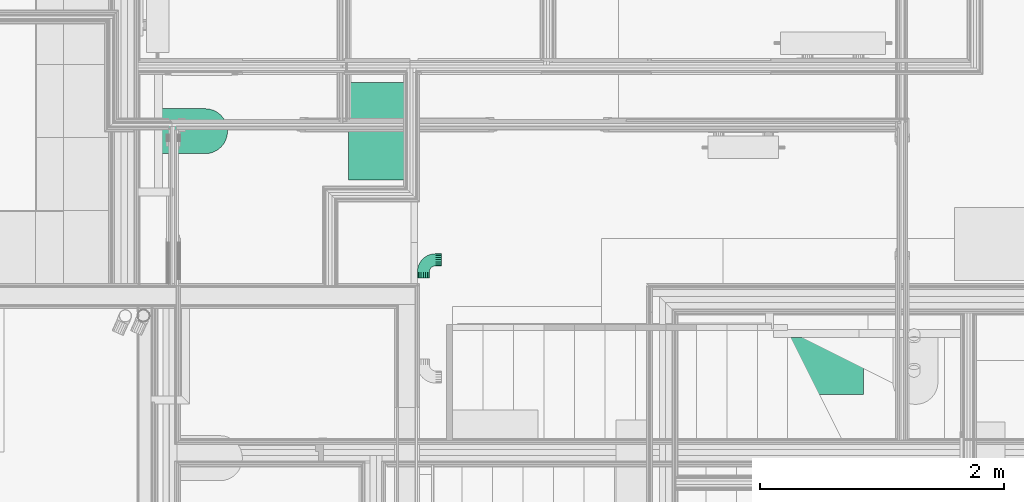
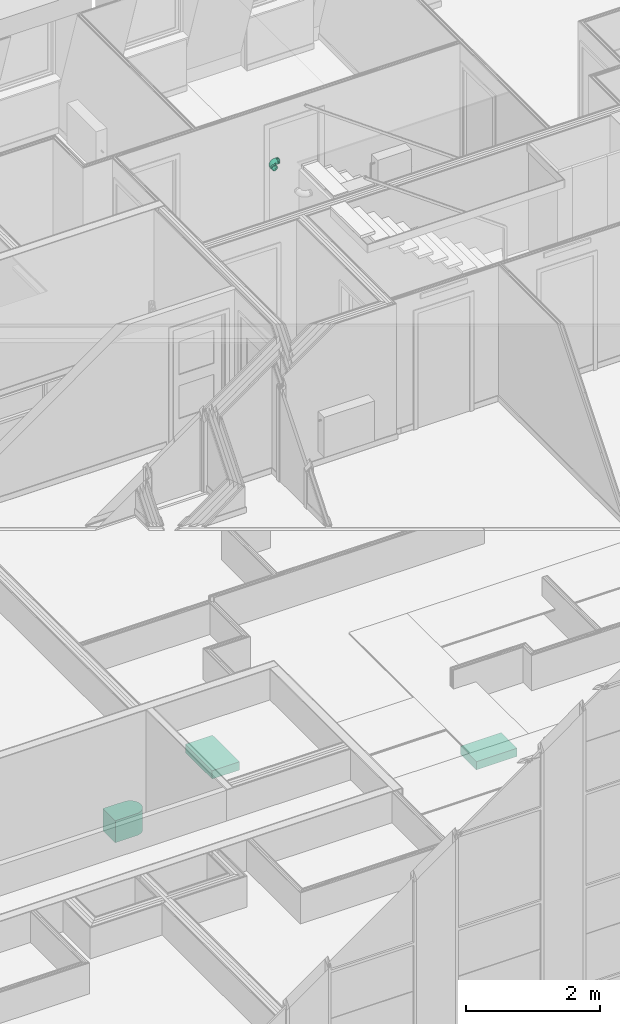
# One storey, part 163 of 169: 3 flow terminals, 1 flow fitting.
"""IFC2X3 building model written with IfcOpenShell, lengths in metres."""

from ifc_helpers import new_model, entity, si_unit, converted_unit, derived_unit, money_unit, direction, frame, origin_with_axes, place, context, subcontext, project, spatial, open_shell, faceted_brep, surface_model, material, type_object, element, save


model = new_model("IFC2X3")

# Units and contexts
model_context = context("Model", 3, precision=1e-05, world=origin_with_axes(), true_north=direction((0.0, 1.0)))
body_context = subcontext(model_context, "Body", "Model", "MODEL_VIEW", scale=1.0)
ifc_project = project(units=[si_unit("LENGTHUNIT", "METRE"), si_unit("AREAUNIT", "SQUARE_METRE"), si_unit("VOLUMEUNIT", "CUBIC_METRE"), si_unit("ABSORBEDDOSEUNIT", "GRAY"), si_unit("AMOUNTOFSUBSTANCEUNIT", "MOLE"), si_unit("DOSEEQUIVALENTUNIT", "SIEVERT"), si_unit("ELECTRICCAPACITANCEUNIT", "FARAD"), si_unit("ELECTRICCHARGEUNIT", "COULOMB"), si_unit("ELECTRICCONDUCTANCEUNIT", "SIEMENS"), si_unit("ELECTRICCURRENTUNIT", "AMPERE"), si_unit("ELECTRICRESISTANCEUNIT", "OHM"), si_unit("ELECTRICVOLTAGEUNIT", "VOLT"), si_unit("ENERGYUNIT", "JOULE"), si_unit("FORCEUNIT", "NEWTON"), si_unit("FREQUENCYUNIT", "HERTZ"), si_unit("ILLUMINANCEUNIT", "LUX"), si_unit("INDUCTANCEUNIT", "HENRY"), si_unit("LUMINOUSFLUXUNIT", "LUMEN"), si_unit("LUMINOUSINTENSITYUNIT", "CANDELA"), si_unit("MAGNETICFLUXDENSITYUNIT", "TESLA"), si_unit("MAGNETICFLUXUNIT", "WEBER"), si_unit("MASSUNIT", "GRAM"), converted_unit("PLANEANGLEUNIT", "degree", entity("IfcReal", 0.0174532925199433), si_unit("PLANEANGLEUNIT", "RADIAN"), dimensions=[0, 0, 0, 0, 0, 0, 0]), si_unit("POWERUNIT", "WATT"), si_unit("PRESSUREUNIT", "PASCAL"), si_unit("RADIOACTIVITYUNIT", "BECQUEREL"), si_unit("SOLIDANGLEUNIT", "STERADIAN"), si_unit("THERMODYNAMICTEMPERATUREUNIT", "KELVIN"), si_unit("TIMEUNIT", "SECOND"), derived_unit("ACCELERATIONUNIT", [(si_unit("LENGTHUNIT", "METRE"), 1), (si_unit("TIMEUNIT", "SECOND"), -2)]), derived_unit("ANGULARVELOCITYUNIT", [(converted_unit("PLANEANGLEUNIT", "degree", entity("IfcReal", 0.0174532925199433), si_unit("PLANEANGLEUNIT", "RADIAN"), dimensions=[0, 0, 0, 0, 0, 0, 0]), 1), (si_unit("TIMEUNIT", "SECOND"), -1)]), derived_unit("CURVATUREUNIT", [(converted_unit("PLANEANGLEUNIT", "degree", entity("IfcReal", 0.0174532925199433), si_unit("PLANEANGLEUNIT", "RADIAN"), dimensions=[0, 0, 0, 0, 0, 0, 0]), 1), (si_unit("LENGTHUNIT", "METRE"), -1)]), derived_unit("DYNAMICVISCOSITYUNIT", [(si_unit("PRESSUREUNIT", "PASCAL"), 1), (si_unit("TIMEUNIT", "SECOND"), 1)]), derived_unit("HEATFLUXDENSITYUNIT", [(si_unit("POWERUNIT", "WATT"), 1), (si_unit("LENGTHUNIT", "METRE"), -2)]), derived_unit("HEATINGVALUEUNIT", [(si_unit("ENERGYUNIT", "JOULE"), 1), (si_unit("MASSUNIT", "GRAM"), -1)]), derived_unit("INTEGERCOUNTRATEUNIT", [(si_unit("TIMEUNIT", "SECOND"), -1)]), derived_unit("IONCONCENTRATIONUNIT", [(si_unit("MASSUNIT", "GRAM"), 1), (si_unit("VOLUMEUNIT", "CUBIC_METRE"), -1)]), derived_unit("ISOTHERMALMOISTURECAPACITYUNIT", [(si_unit("VOLUMEUNIT", "CUBIC_METRE"), 1), (si_unit("MASSUNIT", "GRAM"), -1)]), derived_unit("KINEMATICVISCOSITYUNIT", [(si_unit("AREAUNIT", "SQUARE_METRE"), 1), (si_unit("TIMEUNIT", "SECOND"), -1)]), derived_unit("LINEARFORCEUNIT", [(si_unit("FORCEUNIT", "NEWTON"), 1), (si_unit("LENGTHUNIT", "METRE"), -1)]), derived_unit("LINEARMOMENTUNIT", [(si_unit("FORCEUNIT", "NEWTON"), 1), (si_unit("LENGTHUNIT", "METRE"), -1)]), derived_unit("LINEARSTIFFNESSUNIT", [(si_unit("FORCEUNIT", "NEWTON"), 1), (si_unit("LENGTHUNIT", "METRE"), -1)]), derived_unit("LINEARVELOCITYUNIT", [(si_unit("LENGTHUNIT", "METRE"), 1), (si_unit("TIMEUNIT", "SECOND"), -1)]), derived_unit("LUMINOUSINTENSITYDISTRIBUTIONUNIT", [(si_unit("LUMINOUSINTENSITYUNIT", "CANDELA"), 1), (si_unit("LUMINOUSFLUXUNIT", "LUMEN"), -1)]), derived_unit("MASSDENSITYUNIT", [(si_unit("MASSUNIT", "GRAM"), 1), (si_unit("VOLUMEUNIT", "CUBIC_METRE"), -1)]), derived_unit("MASSFLOWRATEUNIT", [(si_unit("MASSUNIT", "GRAM"), 1), (si_unit("TIMEUNIT", "SECOND"), -1)]), derived_unit("MASSPERLENGTHUNIT", [(si_unit("MASSUNIT", "GRAM"), 1), (si_unit("LENGTHUNIT", "METRE"), -1)]), derived_unit("MODULUSOFELASTICITYUNIT", [(si_unit("FORCEUNIT", "NEWTON"), 1), (si_unit("AREAUNIT", "SQUARE_METRE"), -1)]), derived_unit("MODULUSOFLINEARSUBGRADEREACTIONUNIT", [(si_unit("FORCEUNIT", "NEWTON"), 1), (si_unit("LENGTHUNIT", "METRE"), -2)]), derived_unit("MODULUSOFROTATIONALSUBGRADEREACTIONUNIT", [(si_unit("FORCEUNIT", "NEWTON"), 1), (si_unit("LENGTHUNIT", "METRE"), 1)]), derived_unit("MODULUSOFSUBGRADEREACTIONUNIT", [(si_unit("FORCEUNIT", "NEWTON"), 1), (si_unit("VOLUMEUNIT", "CUBIC_METRE"), -1)]), derived_unit("MOISTUREDIFFUSIVITYUNIT", [(si_unit("VOLUMEUNIT", "CUBIC_METRE"), 1), (si_unit("TIMEUNIT", "SECOND"), -1)]), derived_unit("MOLECULARWEIGHTUNIT", [(si_unit("MASSUNIT", "GRAM"), 1), (si_unit("AMOUNTOFSUBSTANCEUNIT", "MOLE"), -1)]), derived_unit("PLANARFORCEUNIT", [(si_unit("FORCEUNIT", "NEWTON"), 1), (si_unit("LENGTHUNIT", "METRE"), -2)]), derived_unit("ROTATIONALFREQUENCYUNIT", [(si_unit("TIMEUNIT", "SECOND"), -1)]), derived_unit("ROTATIONALMASSUNIT", [(si_unit("MASSUNIT", "GRAM"), 1), (si_unit("LENGTHUNIT", "METRE"), 2)]), derived_unit("ROTATIONALSTIFFNESSUNIT", [(si_unit("FORCEUNIT", "NEWTON"), 1), (si_unit("LENGTHUNIT", "METRE"), 1), (converted_unit("PLANEANGLEUNIT", "degree", entity("IfcReal", 0.0174532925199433), si_unit("PLANEANGLEUNIT", "RADIAN"), dimensions=[0, 0, 0, 0, 0, 0, 0]), -1)]), derived_unit("SECTIONAREAINTEGRALUNIT", [(si_unit("LENGTHUNIT", "METRE"), 5)]), derived_unit("SECTIONMODULUSUNIT", [(si_unit("LENGTHUNIT", "METRE"), 3)]), derived_unit("SHEARMODULUSUNIT", [(si_unit("FORCEUNIT", "NEWTON"), 1), (si_unit("AREAUNIT", "SQUARE_METRE"), -1)]), derived_unit("SOUNDPOWERUNIT", [(si_unit("ENERGYUNIT", "JOULE"), 1), (si_unit("TIMEUNIT", "SECOND"), -1)]), derived_unit("SPECIFICHEATCAPACITYUNIT", [(si_unit("FORCEUNIT", "NEWTON"), 1), (si_unit("MASSUNIT", "GRAM"), -1), (si_unit("THERMODYNAMICTEMPERATUREUNIT", "KELVIN"), -1)]), derived_unit("TEMPERATUREGRADIENTUNIT", [(si_unit("THERMODYNAMICTEMPERATUREUNIT", "KELVIN"), 1), (si_unit("LENGTHUNIT", "METRE"), -1)]), derived_unit("THERMALADMITTANCEUNIT", [(si_unit("POWERUNIT", "WATT"), 1), (si_unit("AREAUNIT", "SQUARE_METRE"), -1), (si_unit("THERMODYNAMICTEMPERATUREUNIT", "KELVIN"), -1)]), derived_unit("THERMALCONDUCTANCEUNIT", [(si_unit("POWERUNIT", "WATT"), 1), (si_unit("LENGTHUNIT", "METRE"), -1), (si_unit("THERMODYNAMICTEMPERATUREUNIT", "KELVIN"), -1)]), derived_unit("THERMALEXPANSIONCOEFFICIENTUNIT", [(si_unit("THERMODYNAMICTEMPERATUREUNIT", "KELVIN"), -1)]), derived_unit("THERMALRESISTANCEUNIT", [(si_unit("AREAUNIT", "SQUARE_METRE"), 1), (si_unit("POWERUNIT", "WATT"), -1)]), derived_unit("THERMALTRANSMITTANCEUNIT", [(si_unit("POWERUNIT", "WATT"), 1), (si_unit("AREAUNIT", "SQUARE_METRE"), -1), (si_unit("THERMODYNAMICTEMPERATUREUNIT", "KELVIN"), -1)]), derived_unit("TORQUEUNIT", [(si_unit("FORCEUNIT", "NEWTON"), 1), (si_unit("LENGTHUNIT", "METRE"), 1)]), derived_unit("VAPORPERMEABILITYUNIT", [(si_unit("MASSUNIT", "GRAM"), 1), (si_unit("TIMEUNIT", "SECOND"), -1)]), derived_unit("VOLUMETRICFLOWRATEUNIT", [(si_unit("VOLUMEUNIT", "CUBIC_METRE"), 1), (si_unit("TIMEUNIT", "SECOND"), -1)]), derived_unit("WARPINGCONSTANTUNIT", [(si_unit("LENGTHUNIT", "METRE"), 6)]), derived_unit("WARPINGMOMENTUNIT", [(si_unit("FORCEUNIT", "NEWTON"), 1), (si_unit("LENGTHUNIT", "METRE"), 2)]), money_unit("GBP")], contexts=[model_context])

# Site, building, storey, space
site_placement = place(None, origin_with_axes())
site = spatial("IfcSite", under=ifc_project, at=site_placement, Name="Site", CompositionType="ELEMENT")
building_placement = place(site_placement, origin_with_axes())
building = spatial("IfcBuilding", under=site, at=building_placement, Name="Building01", CompositionType="ELEMENT")
storey_placement = place(building_placement, frame((0.0, 0.0, 5.15), z_axis=(0.0, 0.0, 1.0), x_axis=(1.0, 0.0, 0.0)))
storey = spatial("IfcBuildingStorey", under=building, at=storey_placement, Name="1F", CompositionType="ELEMENT", Elevation=5.15)
space_1_placement = place(storey_placement, frame((18.239976, 7.549915, 9.86), z_axis=(0.0, 0.0, 1.0), x_axis=(0.0, 1.0, 0.0)))
space_1 = spatial("IfcSpace", under=storey, at=space_1_placement, Name="corridor (protected)", CompositionType="ELEMENT", InteriorOrExteriorSpace="NOTDEFINED")

# Flow fitting
ifc_material = material(Name="M_BSUK_Ventilation")
duct_fitting_type = type_object("IfcDuctFittingType", Name="M-Roundelbow-DefaultRound", PredefinedType="BEND")
placement = place(building_placement, origin_with_axes())
flow_fitting_placement = place(placement, frame((18.05, 8.932559, 17.28), z_axis=(-1.0, 0.0, 0.0), x_axis=(0.0, 1.0, 0.0)))
element("IfcFlowFitting", 1, at=flow_fitting_placement, inside=space_1, type_object=duct_fitting_type, material=ifc_material, Name="M-Roundelbow-DefaultRound", ObjectType="M-Roundelbow-DefaultRound", context=body_context, shape_type="SurfaceModel", body=[
    surface_model("IfcShellBasedSurfaceModel", [(0.008112, -0.01349, -0.048784), (0.0, -0.01349, -0.048146), (0.0, 0.0, -0.05), (0.007822, 0.0, -0.050616), (0.016024, -0.01349, -0.050684), (0.015451, 0.0, -0.052447), (0.023541, -0.01349, -0.053798), (0.0227, 0.0, -0.05545), (0.030479, -0.01349, -0.058049), (0.029389, 0.0, -0.059549), (0.036666, -0.01349, -0.063334), (0.035355, 0.0, -0.064645), (0.041951, -0.01349, -0.069521), (0.040451, 0.0, -0.070611), (0.046202, -0.01349, -0.076459), (0.04455, 0.0, -0.0773), (0.049316, -0.01349, -0.083976), (0.047553, 0.0, -0.084549), (0.051216, -0.01349, -0.091888), (0.049384, 0.0, -0.092178), (0.051854, -0.01349, -0.1), (0.05, 0.0, -0.1), (0.00896, -0.025979, -0.043426), (0.0, -0.025979, -0.042721), (0.0177, -0.025979, -0.045524), (0.026004, -0.025979, -0.048964), (0.033668, -0.025979, -0.05366), (0.040502, -0.025979, -0.059498), (0.04634, -0.025979, -0.066332), (0.051036, -0.025979, -0.073996), (0.054476, -0.025979, -0.0823), (0.056574, -0.025979, -0.09104), (0.057279, -0.025979, -0.1), (0.010305, -0.036542, -0.034939), (0.0, -0.036542, -0.034128), (0.020356, -0.036542, -0.037352), (0.029905, -0.036542, -0.041307), (0.038719, -0.036542, -0.046708), (0.046579, -0.036542, -0.053421), (0.053292, -0.036542, -0.061281), (0.058693, -0.036542, -0.070095), (0.062648, -0.036542, -0.079644), (0.065061, -0.036542, -0.089695), (0.065872, -0.036542, -0.1), (0.012045, -0.044394, -0.023951), (0.0, -0.044394, -0.023003), (0.023793, -0.044394, -0.026772), (0.034956, -0.044394, -0.031395), (0.045258, -0.044394, -0.037708), (0.054445, -0.044394, -0.045555), (0.062292, -0.044394, -0.054742), (0.068605, -0.044394, -0.065044), (0.073228, -0.044394, -0.076207), (0.076049, -0.044394, -0.087955), (0.076997, -0.044394, -0.1), (0.014052, -0.048954, -0.011279), (0.0, -0.048954, -0.010173), (0.027758, -0.048954, -0.014569), (0.040781, -0.048954, -0.019963), (0.052799, -0.048954, -0.027328), (0.063517, -0.048954, -0.036483), (0.072672, -0.048954, -0.047201), (0.080037, -0.048954, -0.059219), (0.085431, -0.048954, -0.072242), (0.088721, -0.048954, -0.085948), (0.089827, -0.048954, -0.1), (0.016177, -0.049883, 0.002139), (0.0, -0.049883, 0.003412), (0.031956, -0.049883, -0.001649), (0.046948, -0.049883, -0.007859), (0.060784, -0.049883, -0.016338), (0.073123, -0.049883, -0.026877), (0.083662, -0.049883, -0.039216), (0.092141, -0.049883, -0.053052), (0.098351, -0.049883, -0.068044), (0.102139, -0.049883, -0.083823), (0.103412, -0.049883, -0.1), (0.018263, -0.047113, 0.015307), (0.0, -0.047113, 0.016744), (0.036076, -0.047113, 0.01103), (0.053001, -0.047113, 0.00402), (0.06862, -0.047113, -0.005552), (0.08255, -0.047113, -0.01745), (0.094448, -0.047113, -0.03138), (0.10402, -0.047113, -0.046999), (0.11103, -0.047113, -0.063924), (0.115307, -0.047113, -0.081737), (0.116744, -0.047113, -0.1), (0.020154, -0.040848, 0.027248), (0.0, -0.040848, 0.028834), (0.039812, -0.040848, 0.022528), (0.058489, -0.040848, 0.014792), (0.075727, -0.040848, 0.004229), (0.091099, -0.040848, -0.008901), (0.104229, -0.040848, -0.024273), (0.114792, -0.040848, -0.041511), (0.122528, -0.040848, -0.060188), (0.127248, -0.040848, -0.079846), (0.128834, -0.040848, -0.1), (0.021711, -0.031554, 0.037077), (0.0, -0.031554, 0.038786), (0.042887, -0.031554, 0.031993), (0.063007, -0.031554, 0.023659), (0.081576, -0.031554, 0.01228), (0.098136, -0.031554, -0.001864), (0.11228, -0.031554, -0.018424), (0.123659, -0.031554, -0.036993), (0.131993, -0.031554, -0.057113), (0.137077, -0.031554, -0.078289), (0.138786, -0.031554, -0.1), (0.022818, -0.01992, 0.044065), (0.0, -0.01992, 0.045861), (0.045073, -0.01992, 0.038722), (0.066219, -0.01992, 0.029963), (0.085735, -0.01992, 0.018004), (0.103139, -0.01992, 0.003139), (0.118004, -0.01992, -0.014265), (0.129963, -0.01992, -0.033781), (0.138722, -0.01992, -0.054927), (0.144065, -0.01992, -0.077182), (0.145861, -0.01992, -0.1), (0.023392, -0.006808, 0.047693), (0.0, -0.006808, 0.049534), (0.046209, -0.006808, 0.042216), (0.067887, -0.006808, 0.033236), (0.087894, -0.006808, 0.020976), (0.105737, -0.006808, 0.005737), (0.120976, -0.006808, -0.012106), (0.133236, -0.006808, -0.032113), (0.142216, -0.006808, -0.053791), (0.147693, -0.006808, -0.076608), (0.149534, -0.006808, -0.1), (0.023392, 0.006808, 0.047693), (0.0, 0.006808, 0.049534), (0.046209, 0.006808, 0.042216), (0.067887, 0.006808, 0.033236), (0.087894, 0.006808, 0.020976), (0.105737, 0.006808, 0.005737), (0.120976, 0.006808, -0.012106), (0.133236, 0.006808, -0.032113), (0.142216, 0.006808, -0.053791), (0.147693, 0.006808, -0.076608), (0.149534, 0.006808, -0.1), (0.022818, 0.01992, 0.044065), (0.0, 0.01992, 0.045861), (0.045073, 0.01992, 0.038722), (0.066219, 0.01992, 0.029963), (0.085735, 0.01992, 0.018004), (0.103139, 0.01992, 0.003139), (0.118004, 0.01992, -0.014265), (0.129963, 0.01992, -0.033781), (0.138722, 0.01992, -0.054927), (0.144065, 0.01992, -0.077182), (0.145861, 0.01992, -0.1), (0.021711, 0.031554, 0.037077), (0.0, 0.031554, 0.038786), (0.042887, 0.031554, 0.031993), (0.063007, 0.031554, 0.023659), (0.081576, 0.031554, 0.01228), (0.098136, 0.031554, -0.001864), (0.11228, 0.031554, -0.018424), (0.123659, 0.031554, -0.036993), (0.131993, 0.031554, -0.057113), (0.137077, 0.031554, -0.078289), (0.138786, 0.031554, -0.1), (0.020154, 0.040848, 0.027248), (0.0, 0.040848, 0.028834), (0.039812, 0.040848, 0.022528), (0.058489, 0.040848, 0.014792), (0.075727, 0.040848, 0.004229), (0.091099, 0.040848, -0.008901), (0.104229, 0.040848, -0.024273), (0.114792, 0.040848, -0.041511), (0.122528, 0.040848, -0.060188), (0.127248, 0.040848, -0.079846), (0.128834, 0.040848, -0.1), (0.018263, 0.047113, 0.015307), (0.0, 0.047113, 0.016744), (0.036076, 0.047113, 0.01103), (0.053001, 0.047113, 0.00402), (0.06862, 0.047113, -0.005552), (0.08255, 0.047113, -0.01745), (0.094448, 0.047113, -0.03138), (0.10402, 0.047113, -0.046999), (0.11103, 0.047113, -0.063924), (0.115307, 0.047113, -0.081737), (0.116744, 0.047113, -0.1), (0.016177, 0.049883, 0.002139), (0.0, 0.049883, 0.003412), (0.031956, 0.049883, -0.001649), (0.046948, 0.049883, -0.007859), (0.060784, 0.049883, -0.016338), (0.073123, 0.049883, -0.026877), (0.083662, 0.049883, -0.039216), (0.092141, 0.049883, -0.053052), (0.098351, 0.049883, -0.068044), (0.102139, 0.049883, -0.083823), (0.103412, 0.049883, -0.1), (0.014052, 0.048954, -0.011279), (0.0, 0.048954, -0.010173), (0.027758, 0.048954, -0.014569), (0.040781, 0.048954, -0.019963), (0.052799, 0.048954, -0.027328), (0.063517, 0.048954, -0.036483), (0.072672, 0.048954, -0.047201), (0.080037, 0.048954, -0.059219), (0.085431, 0.048954, -0.072242), (0.088721, 0.048954, -0.085948), (0.089827, 0.048954, -0.1), (0.012045, 0.044394, -0.023951), (0.0, 0.044394, -0.023003), (0.023793, 0.044394, -0.026772), (0.034956, 0.044394, -0.031395), (0.045258, 0.044394, -0.037708), (0.054445, 0.044394, -0.045555), (0.062292, 0.044394, -0.054742), (0.068605, 0.044394, -0.065044), (0.073228, 0.044394, -0.076207), (0.076049, 0.044394, -0.087955), (0.076997, 0.044394, -0.1), (0.010305, 0.036542, -0.034939), (0.0, 0.036542, -0.034128), (0.020356, 0.036542, -0.037352), (0.029905, 0.036542, -0.041307), (0.038719, 0.036542, -0.046708), (0.046579, 0.036542, -0.053421), (0.053292, 0.036542, -0.061281), (0.058693, 0.036542, -0.070095), (0.062648, 0.036542, -0.079644), (0.065061, 0.036542, -0.089695), (0.065872, 0.036542, -0.1), (0.00896, 0.025979, -0.043426), (0.0, 0.025979, -0.042721), (0.0177, 0.025979, -0.045524), (0.026004, 0.025979, -0.048964), (0.033668, 0.025979, -0.05366), (0.040502, 0.025979, -0.059498), (0.04634, 0.025979, -0.066332), (0.051036, 0.025979, -0.073996), (0.054476, 0.025979, -0.0823), (0.056574, 0.025979, -0.09104), (0.057279, 0.025979, -0.1), (0.008112, 0.01349, -0.048784), (0.0, 0.01349, -0.048146), (0.016024, 0.01349, -0.050684), (0.023541, 0.01349, -0.053798), (0.030479, 0.01349, -0.058049), (0.036666, 0.01349, -0.063334), (0.041951, 0.01349, -0.069521), (0.046202, 0.01349, -0.076459), (0.049316, 0.01349, -0.083976), (0.051216, 0.01349, -0.091888), (0.051854, 0.01349, -0.1), (-0.05, 0.0, -0.05), (0.0, -0.019134, -0.046194), (-0.05, -0.019134, -0.046194), (0.0, -0.035355, -0.035355), (-0.05, -0.035355, -0.035355), (0.0, -0.046194, -0.019134), (-0.05, -0.046194, -0.019134), (0.0, -0.05, 0.0), (-0.05, -0.05, 0.0), (0.0, -0.046194, 0.019134), (-0.05, -0.046194, 0.019134), (0.0, -0.035355, 0.035355), (-0.05, -0.035355, 0.035355), (0.0, -0.019134, 0.046194), (-0.05, -0.019134, 0.046194), (0.0, 0.0, 0.05), (-0.05, 0.0, 0.05), (0.0, 0.019134, 0.046194), (-0.05, 0.019134, 0.046194), (0.0, 0.035355, 0.035355), (-0.05, 0.035355, 0.035355), (0.0, 0.046194, 0.019134), (-0.05, 0.046194, 0.019134), (0.0, 0.05, 0.0), (-0.05, 0.05, 0.0), (0.0, 0.046194, -0.019134), (-0.05, 0.046194, -0.019134), (0.0, 0.035355, -0.035355), (-0.05, 0.035355, -0.035355), (0.0, 0.019134, -0.046194), (-0.05, 0.019134, -0.046194), (0.05, 0.0, -0.15), (0.053806, 0.019134, -0.1), (0.053806, 0.019134, -0.15), (0.064645, 0.035355, -0.1), (0.064645, 0.035355, -0.15), (0.080866, 0.046194, -0.1), (0.080866, 0.046194, -0.15), (0.1, 0.05, -0.1), (0.1, 0.05, -0.15), (0.119134, 0.046194, -0.1), (0.119134, 0.046194, -0.15), (0.135355, 0.035355, -0.1), (0.135355, 0.035355, -0.15), (0.146194, 0.019134, -0.1), (0.146194, 0.019134, -0.15), (0.15, 0.0, -0.1), (0.15, 0.0, -0.15), (0.146194, -0.019134, -0.1), (0.146194, -0.019134, -0.15), (0.135355, -0.035355, -0.1), (0.135355, -0.035355, -0.15), (0.119134, -0.046194, -0.1), (0.119134, -0.046194, -0.15), (0.1, -0.05, -0.1), (0.1, -0.05, -0.15), (0.080866, -0.046194, -0.1), (0.080866, -0.046194, -0.15), (0.064645, -0.035355, -0.1), (0.064645, -0.035355, -0.15), (0.053806, -0.019134, -0.1), (0.053806, -0.019134, -0.15)], [open_shell([[[0, 1, 2, 3]], [[4, 0, 3, 5]], [[6, 4, 5, 7]], [[8, 6, 7, 9]], [[10, 8, 9, 11]], [[12, 10, 11, 13]], [[14, 12, 13, 15]], [[16, 14, 15, 17]], [[18, 16, 17, 19]], [[20, 18, 19, 21]], [[22, 23, 1, 0]], [[24, 22, 0, 4]], [[25, 24, 4, 6]], [[26, 25, 6, 8]], [[27, 26, 8, 10]], [[28, 27, 10, 12]], [[29, 28, 12, 14]], [[30, 29, 14, 16]], [[31, 30, 16, 18]], [[32, 31, 18, 20]], [[33, 34, 23, 22]], [[35, 33, 22, 24]], [[36, 35, 24, 25]], [[37, 36, 25, 26]], [[38, 37, 26, 27]], [[39, 38, 27, 28]], [[40, 39, 28, 29]], [[41, 40, 29, 30]], [[42, 41, 30, 31]], [[43, 42, 31, 32]], [[44, 45, 34, 33]], [[46, 44, 33, 35]], [[47, 46, 35, 36]], [[48, 47, 36, 37]], [[49, 48, 37, 38]], [[50, 49, 38, 39]], [[51, 50, 39, 40]], [[52, 51, 40, 41]], [[53, 52, 41, 42]], [[54, 53, 42, 43]], [[55, 56, 45, 44]], [[57, 55, 44, 46]], [[58, 57, 46, 47]], [[59, 58, 47, 48]], [[60, 59, 48, 49]], [[61, 60, 49, 50]], [[62, 61, 50, 51]], [[63, 62, 51, 52]], [[64, 63, 52, 53]], [[65, 64, 53, 54]], [[66, 67, 56, 55]], [[68, 66, 55, 57]], [[69, 68, 57, 58]], [[70, 69, 58, 59]], [[71, 70, 59, 60]], [[72, 71, 60, 61]], [[73, 72, 61, 62]], [[74, 73, 62, 63]], [[75, 74, 63, 64]], [[76, 75, 64, 65]], [[77, 78, 67, 66]], [[79, 77, 66, 68]], [[80, 79, 68, 69]], [[81, 80, 69, 70]], [[82, 81, 70, 71]], [[83, 82, 71, 72]], [[84, 83, 72, 73]], [[85, 84, 73, 74]], [[86, 85, 74, 75]], [[87, 86, 75, 76]], [[88, 89, 78, 77]], [[90, 88, 77, 79]], [[91, 90, 79, 80]], [[92, 91, 80, 81]], [[93, 92, 81, 82]], [[94, 93, 82, 83]], [[95, 94, 83, 84]], [[96, 95, 84, 85]], [[97, 96, 85, 86]], [[98, 97, 86, 87]], [[99, 100, 89, 88]], [[101, 99, 88, 90]], [[102, 101, 90, 91]], [[103, 102, 91, 92]], [[104, 103, 92, 93]], [[105, 104, 93, 94]], [[106, 105, 94, 95]], [[107, 106, 95, 96]], [[108, 107, 96, 97]], [[109, 108, 97, 98]], [[110, 111, 100, 99]], [[112, 110, 99, 101]], [[113, 112, 101, 102]], [[114, 113, 102, 103]], [[115, 114, 103, 104]], [[116, 115, 104, 105]], [[117, 116, 105, 106]], [[118, 117, 106, 107]], [[119, 118, 107, 108]], [[120, 119, 108, 109]], [[121, 122, 111, 110]], [[123, 121, 110, 112]], [[124, 123, 112, 113]], [[125, 124, 113, 114]], [[126, 125, 114, 115]], [[127, 126, 115, 116]], [[128, 127, 116, 117]], [[129, 128, 117, 118]], [[130, 129, 118, 119]], [[131, 130, 119, 120]], [[132, 133, 122, 121]], [[134, 132, 121, 123]], [[135, 134, 123, 124]], [[136, 135, 124, 125]], [[137, 136, 125, 126]], [[138, 137, 126, 127]], [[139, 138, 127, 128]], [[140, 139, 128, 129]], [[141, 140, 129, 130]], [[142, 141, 130, 131]], [[143, 144, 133, 132]], [[145, 143, 132, 134]], [[146, 145, 134, 135]], [[147, 146, 135, 136]], [[148, 147, 136, 137]], [[149, 148, 137, 138]], [[150, 149, 138, 139]], [[151, 150, 139, 140]], [[152, 151, 140, 141]], [[153, 152, 141, 142]], [[154, 155, 144, 143]], [[156, 154, 143, 145]], [[157, 156, 145, 146]], [[158, 157, 146, 147]], [[159, 158, 147, 148]], [[160, 159, 148, 149]], [[161, 160, 149, 150]], [[162, 161, 150, 151]], [[163, 162, 151, 152]], [[164, 163, 152, 153]], [[165, 166, 155, 154]], [[167, 165, 154, 156]], [[168, 167, 156, 157]], [[169, 168, 157, 158]], [[170, 169, 158, 159]], [[171, 170, 159, 160]], [[172, 171, 160, 161]], [[173, 172, 161, 162]], [[174, 173, 162, 163]], [[175, 174, 163, 164]], [[176, 177, 166, 165]], [[178, 176, 165, 167]], [[179, 178, 167, 168]], [[180, 179, 168, 169]], [[181, 180, 169, 170]], [[182, 181, 170, 171]], [[183, 182, 171, 172]], [[184, 183, 172, 173]], [[185, 184, 173, 174]], [[186, 185, 174, 175]], [[187, 188, 177, 176]], [[189, 187, 176, 178]], [[190, 189, 178, 179]], [[191, 190, 179, 180]], [[192, 191, 180, 181]], [[193, 192, 181, 182]], [[194, 193, 182, 183]], [[195, 194, 183, 184]], [[196, 195, 184, 185]], [[197, 196, 185, 186]], [[198, 199, 188, 187]], [[200, 198, 187, 189]], [[201, 200, 189, 190]], [[202, 201, 190, 191]], [[203, 202, 191, 192]], [[204, 203, 192, 193]], [[205, 204, 193, 194]], [[206, 205, 194, 195]], [[207, 206, 195, 196]], [[208, 207, 196, 197]], [[209, 210, 199, 198]], [[211, 209, 198, 200]], [[212, 211, 200, 201]], [[213, 212, 201, 202]], [[214, 213, 202, 203]], [[215, 214, 203, 204]], [[216, 215, 204, 205]], [[217, 216, 205, 206]], [[218, 217, 206, 207]], [[219, 218, 207, 208]], [[220, 221, 210, 209]], [[222, 220, 209, 211]], [[223, 222, 211, 212]], [[224, 223, 212, 213]], [[225, 224, 213, 214]], [[226, 225, 214, 215]], [[227, 226, 215, 216]], [[228, 227, 216, 217]], [[229, 228, 217, 218]], [[230, 229, 218, 219]], [[231, 232, 221, 220]], [[233, 231, 220, 222]], [[234, 233, 222, 223]], [[235, 234, 223, 224]], [[236, 235, 224, 225]], [[237, 236, 225, 226]], [[238, 237, 226, 227]], [[239, 238, 227, 228]], [[240, 239, 228, 229]], [[241, 240, 229, 230]], [[242, 243, 232, 231]], [[244, 242, 231, 233]], [[245, 244, 233, 234]], [[246, 245, 234, 235]], [[247, 246, 235, 236]], [[248, 247, 236, 237]], [[249, 248, 237, 238]], [[250, 249, 238, 239]], [[251, 250, 239, 240]], [[252, 251, 240, 241]], [[3, 2, 243, 242]], [[5, 3, 242, 244]], [[7, 5, 244, 245]], [[9, 7, 245, 246]], [[11, 9, 246, 247]], [[13, 11, 247, 248]], [[15, 13, 248, 249]], [[17, 15, 249, 250]], [[19, 17, 250, 251]], [[21, 19, 251, 252]], [[253, 2, 254, 255]], [[255, 254, 256, 257]], [[257, 256, 258, 259]], [[259, 258, 260, 261]], [[261, 260, 262, 263]], [[263, 262, 264, 265]], [[265, 264, 266, 267]], [[267, 266, 268, 269]], [[269, 268, 270, 271]], [[271, 270, 272, 273]], [[273, 272, 274, 275]], [[275, 274, 276, 277]], [[277, 276, 278, 279]], [[279, 278, 280, 281]], [[281, 280, 282, 283]], [[283, 282, 2, 253]], [[284, 21, 285, 286]], [[286, 285, 287, 288]], [[288, 287, 289, 290]], [[290, 289, 291, 292]], [[292, 291, 293, 294]], [[294, 293, 295, 296]], [[296, 295, 297, 298]], [[298, 297, 299, 300]], [[300, 299, 301, 302]], [[302, 301, 303, 304]], [[304, 303, 305, 306]], [[306, 305, 307, 308]], [[308, 307, 309, 310]], [[310, 309, 311, 312]], [[312, 311, 313, 314]], [[314, 313, 21, 284]]])]),
])

# Space
space_2_placement = place(storey_placement, frame((15.83, 8.82, 0.017975), z_axis=(0.0, 0.0, 1.0), x_axis=(0.0, -1.0, 0.0)))
space_2 = spatial("IfcSpace", under=storey, at=space_2_placement, Name="02", CompositionType="ELEMENT", InteriorOrExteriorSpace="NOTDEFINED")

# Flow terminal
sanitary_terminal_type_1 = type_object("IfcSanitaryTerminalType", Name="SHE_A-Sink_47x80", PredefinedType="NOTDEFINED")
flow_terminal_1_placement = place(storey_placement, frame((17.67, 10.087491, 0.825), z_axis=(0.0, 0.0, 1.0), x_axis=(1.0, 0.0, 0.0)))
element("IfcFlowTerminal", 2, at=flow_terminal_1_placement, inside=space_2, type_object=sanitary_terminal_type_1, Name="02", ObjectType="SHE_A-Sink_47x80", context=body_context, shape_type="Brep", body=[
    faceted_brep([(-0.235, 0.4, -0.075), (-0.235, 0.4, 0.075), (0.235, 0.4, 0.075), (0.235, 0.4, -0.075), (-0.235, -0.4, -0.075), (-0.235, -0.4, 0.075), (0.235, -0.4, -0.075), (0.235, -0.4, 0.075)], [[[0, 1, 2, 3]], [[4, 5, 1, 0]], [[6, 7, 5, 4]], [[3, 2, 7, 6]], [[1, 5, 7, 2]], [[3, 6, 4, 0]]]),
])

# Space
space_3_placement = place(storey_placement, frame((15.708132, 10.57, 0.017975), z_axis=(0.0, 0.0, 1.0), x_axis=(0.0, -1.0, 0.0)))
space_3 = spatial("IfcSpace", under=storey, at=space_3_placement, Name="ensuite", CompositionType="ELEMENT", InteriorOrExteriorSpace="NOTDEFINED")

# Flow terminal
sanitary_terminal_type_2 = type_object("IfcSanitaryTerminalType", Name="SHE_A-Toilet_base", PredefinedType="NOTDEFINED")
flow_terminal_2_placement = place(storey_placement, frame((16.168135, 10.087492, 0.2), z_axis=(0.0, 0.0, 1.0), x_axis=(1.0, 0.0, 0.0)))
element("IfcFlowTerminal", 3, at=flow_terminal_2_placement, inside=space_3, type_object=sanitary_terminal_type_2, Name="02", ObjectType="SHE_A-Toilet_base", context=body_context, shape_type="Brep", body=[
    faceted_brep([(0.089995, 0.185008, -0.2), (0.126088, 0.181454, -0.2), (0.160795, 0.170926, -0.2), (0.19278, 0.153829, -0.2), (0.220816, 0.130821, -0.2), (0.243824, 0.102785, -0.2), (0.26092, 0.0708, -0.2), (0.271448, 0.036093, -0.2), (0.275003, 0.0, -0.2), (0.271448, -0.036093, -0.2), (0.26092, -0.0708, -0.2), (0.243824, -0.102785, -0.2), (0.220816, -0.130821, -0.2), (0.19278, -0.153829, -0.2), (0.160795, -0.170926, -0.2), (0.126088, -0.181454, -0.2), (0.089995, -0.185009, -0.2), (-0.275003, -0.185009, -0.2), (-0.275003, 0.185008, -0.2), (-0.275003, 0.185008, 0.2), (-0.275003, -0.185009, 0.2), (0.089995, -0.185009, 0.2), (0.126088, -0.181454, 0.2), (0.160795, -0.170926, 0.2), (0.19278, -0.153829, 0.2), (0.220816, -0.130821, 0.2), (0.243824, -0.102785, 0.2), (0.26092, -0.0708, 0.2), (0.271448, -0.036093, 0.2), (0.275003, 0.0, 0.2), (0.271448, 0.036093, 0.2), (0.26092, 0.0708, 0.2), (0.243824, 0.102785, 0.2), (0.220816, 0.130821, 0.2), (0.19278, 0.153829, 0.2), (0.160795, 0.170926, 0.2), (0.126088, 0.181454, 0.2), (0.089995, 0.185008, 0.2)], [[[0, 1, 2, 3, 4, 5, 6, 7, 8, 9, 10, 11, 12, 13, 14, 15, 16, 17, 18]], [[19, 20, 21, 22, 23, 24, 25, 26, 27, 28, 29, 30, 31, 32, 33, 34, 35, 36, 37]], [[15, 22, 21, 16]], [[14, 23, 22, 15]], [[13, 24, 23, 14]], [[12, 25, 24, 13]], [[11, 26, 25, 12]], [[10, 27, 26, 11]], [[9, 28, 27, 10]], [[8, 29, 28, 9]], [[7, 30, 29, 8]], [[6, 31, 30, 7]], [[5, 32, 31, 6]], [[4, 33, 32, 5]], [[3, 34, 33, 4]], [[2, 35, 34, 3]], [[1, 36, 35, 2]], [[0, 37, 36, 1]], [[16, 21, 20, 17]], [[17, 20, 19, 18]], [[18, 19, 37, 0]]]),
])

# Space
space_4_placement = place(storey_placement, frame((20.122661, 5.205, 0.017975), z_axis=(0.0, 0.0, 1.0), x_axis=(1.0, 0.0, 0.0)))
space_4 = spatial("IfcSpace", under=storey, at=space_4_placement, Name="03", CompositionType="ELEMENT", InteriorOrExteriorSpace="NOTDEFINED")

# Flow terminal
sanitary_terminal_type_3 = type_object("IfcSanitaryTerminalType", Name="SHE_A-Sink_47x70", PredefinedType="NOTDEFINED")
flow_terminal_3_placement = place(storey_placement, frame((21.311162, 8.160003, 0.825), z_axis=(0.0, 0.0, 1.0), x_axis=(0.0, -1.0, 0.0)))
element("IfcFlowTerminal", 4, at=flow_terminal_3_placement, inside=space_4, type_object=sanitary_terminal_type_3, Name="03", ObjectType="SHE_A-Sink_47x70", context=body_context, shape_type="Brep", body=[
    faceted_brep([(-0.235, 0.35, -0.075), (-0.235, 0.35, 0.075), (0.235, 0.35, 0.075), (0.235, 0.35, -0.075), (0.235, -0.35, 0.075), (0.235, -0.35, -0.075), (-0.235, -0.35, 0.075), (-0.235, -0.35, -0.075)], [[[0, 1, 2, 3]], [[3, 2, 4, 5]], [[5, 4, 6, 7]], [[7, 6, 1, 0]], [[1, 6, 4, 2]], [[3, 5, 7, 0]]]),
])

save(model, "model.ifc")
